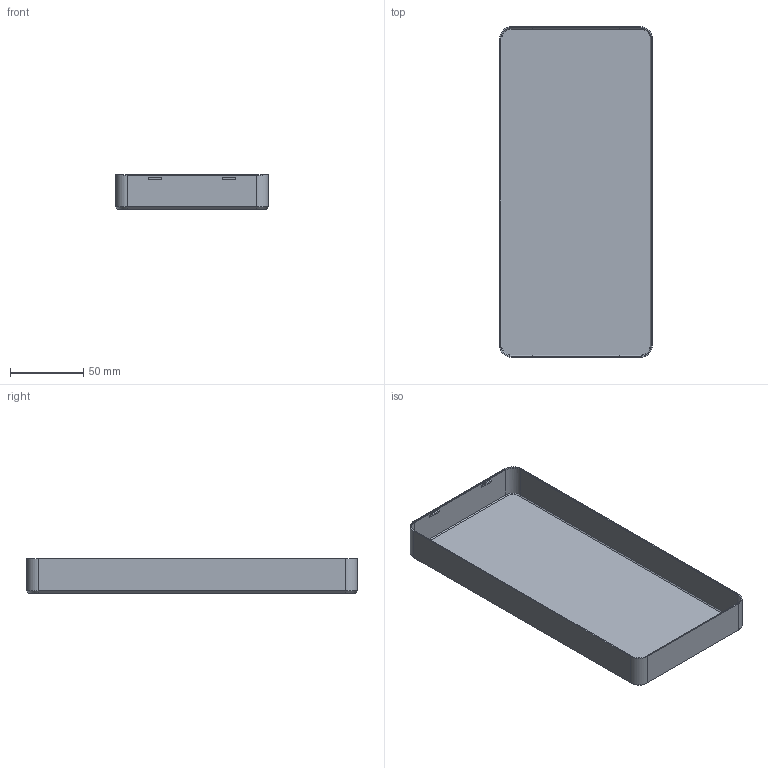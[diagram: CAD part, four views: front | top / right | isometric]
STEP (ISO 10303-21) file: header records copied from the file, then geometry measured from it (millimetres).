
FILE_DESCRIPTION(/* description */ (''),/* implementation_level */ '2;1');
FILE_NAME(/* name */ 'STEDE05',/* time_stamp */ '2023-08-28T21:11:39+02:00',/* author */ (''),/* organization */ (''),/* preprocessor_version */ 'ST-DEVELOPER v16.5',/* originating_system */ '',/* authorisation */ '');
FILE_SCHEMA (('AUTOMOTIVE_DESIGN'));
Length unit declared in the file: millimetre
Products named in the file (1): Document
Bounding box: 104 x 225 x 23.4 mm (x, y, z)
Volume: 39141.4 mm3; surface area: 75086 mm2
Topology: 1 solids, 1 shells, 64 faces, 147 edges, 90 vertices
Faces by surface type: plane 44, bspline 12, cylinder 8
Entity records: 1770 total; most frequent: CARTESIAN_POINT 741, ORIENTED_EDGE 294, EDGE_CURVE 147, B_SPLINE_CURVE_WITH_KNOTS 102, VERTEX_POINT 90, EDGE_LOOP 69, ADVANCED_FACE 64, FACE_OUTER_BOUND 64
